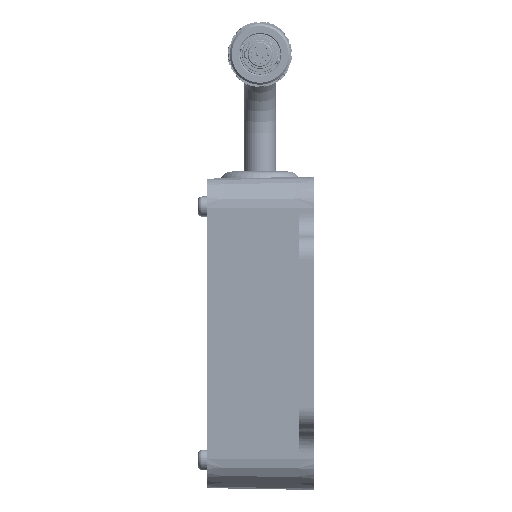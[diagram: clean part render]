
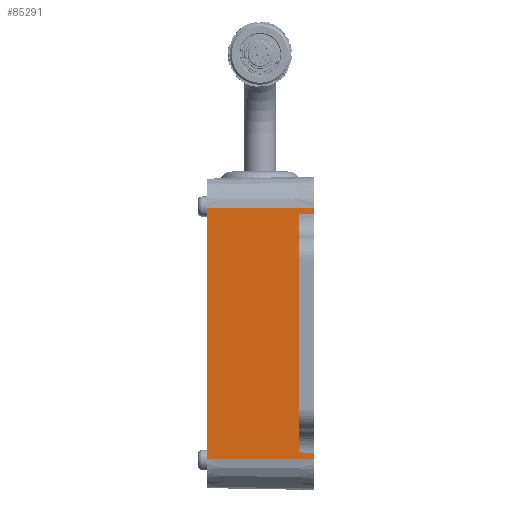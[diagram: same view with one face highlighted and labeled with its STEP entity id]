
A CAD part, left-side view. The second image highlights one B-rep face of the part: STEP entity #85291.
In plain terms, the highlighted planar face has unit normal (-1, 0.018, 0).
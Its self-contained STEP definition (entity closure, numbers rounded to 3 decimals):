
#10054 = DIRECTION ( 'NONE',  ( -1., 0.017, 0. ) ) ;
#12556 = ORIENTED_EDGE ( 'NONE', *, *, #355001, .T. ) ;
#27112 = ORIENTED_EDGE ( 'NONE', *, *, #244445, .T. ) ;
#27340 = ORIENTED_EDGE ( 'NONE', *, *, #344313, .T. ) ;
#32595 = CARTESIAN_POINT ( 'NONE',  ( -33.5, -4., 0. ) ) ;
#37240 = FACE_OUTER_BOUND ( 'NONE', #92207, .T. ) ;
#44241 = VERTEX_POINT ( 'NONE', #297725 ) ;
#49422 = DIRECTION ( 'NONE',  ( -0.017, -1., 0.017 ) ) ;
#61756 = LINE ( 'NONE', #32595, #333195 ) ;
#72822 = CARTESIAN_POINT ( 'NONE',  ( -33.5, -4., 32. ) ) ;
#78742 = CARTESIAN_POINT ( 'NONE',  ( -33.5, -4., -32. ) ) ;
#79997 = LINE ( 'NONE', #107237, #213964 ) ;
#85291 = ADVANCED_FACE ( 'NONE', ( #37240 ), #276456, .T. ) ;
#90849 = VERTEX_POINT ( 'NONE', #189827 ) ;
#92207 = EDGE_LOOP ( 'NONE', ( #375380, #12556, #347283, #27112, #180763, #27340, #230471, #175677 ) ) ;
#94866 = DIRECTION ( 'NONE',  ( 0.017, 1., 0.017 ) ) ;
#107237 = CARTESIAN_POINT ( 'NONE',  ( -33.5, -4., 0. ) ) ;
#108811 = LINE ( 'NONE', #322779, #222800 ) ;
#110529 = VERTEX_POINT ( 'NONE', #168027 ) ;
#110920 = VERTEX_POINT ( 'NONE', #312563 ) ;
#122949 = VECTOR ( 'NONE', #224809, 1000. ) ;
#125989 = VECTOR ( 'NONE', #94866, 1000. ) ;
#132971 = CARTESIAN_POINT ( 'NONE',  ( -33.02, 23.5, -32. ) ) ;
#151246 = DIRECTION ( 'NONE',  ( 0., 0., -1. ) ) ;
#155907 = CARTESIAN_POINT ( 'NONE',  ( -33.5, -4., 0. ) ) ;
#160678 = EDGE_CURVE ( 'NONE', #376154, #44241, #61756, .T. ) ;
#168027 = CARTESIAN_POINT ( 'NONE',  ( -33.43, 0., 30.408 ) ) ;
#175677 = ORIENTED_EDGE ( 'NONE', *, *, #296578, .F. ) ;
#179297 = LINE ( 'NONE', #348824, #246292 ) ;
#180763 = ORIENTED_EDGE ( 'NONE', *, *, #160678, .F. ) ;
#189467 = CARTESIAN_POINT ( 'NONE',  ( -33.498, -3.86, -32. ) ) ;
#189827 = CARTESIAN_POINT ( 'NONE',  ( -33.02, 23.5, 32. ) ) ;
#213964 = VECTOR ( 'NONE', #225797, 1000. ) ;
#222800 = VECTOR ( 'NONE', #227348, 1000. ) ;
#224809 = DIRECTION ( 'NONE',  ( 0.017, 1., 0. ) ) ;
#225797 = DIRECTION ( 'NONE',  ( 0., 0., -1. ) ) ;
#227348 = DIRECTION ( 'NONE',  ( 0., 0., -1. ) ) ;
#230471 = ORIENTED_EDGE ( 'NONE', *, *, #314111, .T. ) ;
#244445 = EDGE_CURVE ( 'NONE', #110529, #44241, #284866, .T. ) ;
#246292 = VECTOR ( 'NONE', #268729, 1000. ) ;
#247189 = DIRECTION ( 'NONE',  ( -0.017, -1., 0. ) ) ;
#249695 = DIRECTION ( 'NONE',  ( 0.017, 1., 0. ) ) ;
#258199 = EDGE_CURVE ( 'NONE', #360180, #271132, #79997, .T. ) ;
#264631 = VECTOR ( 'NONE', #249695, 1000. ) ;
#265669 = EDGE_CURVE ( 'NONE', #110920, #110529, #179297, .T. ) ;
#267008 = VERTEX_POINT ( 'NONE', #132971 ) ;
#268729 = DIRECTION ( 'NONE',  ( 0., 0., 1. ) ) ;
#271132 = VERTEX_POINT ( 'NONE', #78742 ) ;
#273826 = CARTESIAN_POINT ( 'NONE',  ( -33.429, 0.096, -30.406 ) ) ;
#276456 = PLANE ( 'NONE',  #298338 ) ;
#284866 = LINE ( 'NONE', #288678, #356524 ) ;
#288678 = CARTESIAN_POINT ( 'NONE',  ( -33.498, -3.904, 30.476 ) ) ;
#296578 = EDGE_CURVE ( 'NONE', #271132, #267008, #339335, .T. ) ;
#297725 = CARTESIAN_POINT ( 'NONE',  ( -33.5, -4., 30.478 ) ) ;
#298338 = AXIS2_PLACEMENT_3D ( 'NONE', #155907, #10054, #247189 ) ;
#312539 = CARTESIAN_POINT ( 'NONE',  ( -33.5, -4., 32. ) ) ;
#312563 = CARTESIAN_POINT ( 'NONE',  ( -33.43, 0., -30.408 ) ) ;
#314111 = EDGE_CURVE ( 'NONE', #90849, #267008, #108811, .T. ) ;
#314439 = LINE ( 'NONE', #312539, #122949 ) ;
#322779 = CARTESIAN_POINT ( 'NONE',  ( -33.02, 23.5, 0. ) ) ;
#333195 = VECTOR ( 'NONE', #151246, 1000. ) ;
#339335 = LINE ( 'NONE', #189467, #264631 ) ;
#343915 = CARTESIAN_POINT ( 'NONE',  ( -33.5, -4., -30.478 ) ) ;
#344313 = EDGE_CURVE ( 'NONE', #376154, #90849, #314439, .T. ) ;
#347283 = ORIENTED_EDGE ( 'NONE', *, *, #265669, .T. ) ;
#348824 = CARTESIAN_POINT ( 'NONE',  ( -33.43, 0., 0. ) ) ;
#355001 = EDGE_CURVE ( 'NONE', #360180, #110920, #361556, .T. ) ;
#356524 = VECTOR ( 'NONE', #49422, 1000. ) ;
#360180 = VERTEX_POINT ( 'NONE', #343915 ) ;
#361556 = LINE ( 'NONE', #273826, #125989 ) ;
#375380 = ORIENTED_EDGE ( 'NONE', *, *, #258199, .F. ) ;
#376154 = VERTEX_POINT ( 'NONE', #72822 ) ;
